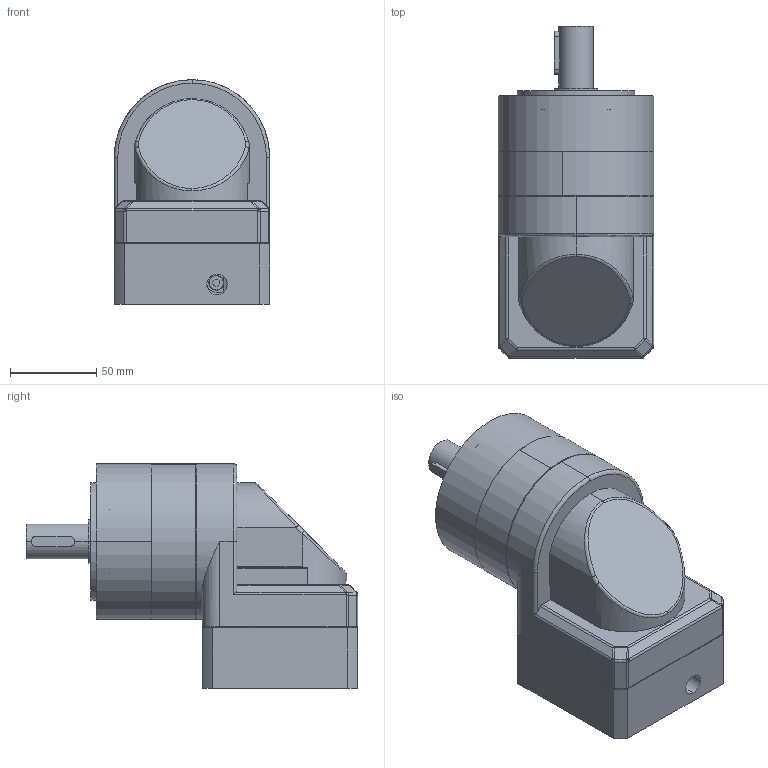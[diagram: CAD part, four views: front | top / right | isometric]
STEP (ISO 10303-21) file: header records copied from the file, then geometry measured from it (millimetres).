
FILE_DESCRIPTION (( 'STEP AP203' ), '1' );
FILE_NAME ('PVEA090-L1-14-73-98.44.STEP', '2026-09-21T07:29:08', ( 'Windows User' ), ( 'P R C' ), 'SwSTEP 2.0', 'SolidWorks 2016', '' );
FILE_SCHEMA (( 'CONFIG_CONTROL_DESIGN' ));
Length unit declared in the file: millimetre
Products named in the file (9): PVEA90-蟀諉啣-73-M5-98.4; PVEA90-薊粣ん-14; M5 x 20; 粣創-3206A 30x62x23.8_2; 邧埴瑩 6x6x25; PVEA090-L1-14-73-98.44; PVEA90 眊极_揤翉陔眊极; PVEA90 κｳﾝﾈｦ-ﾓﾅｻｯ_ﾒｻｼｶﾄﾚｳﾝﾈｦ; PVEA90 奻屳唳
Assembly tree (8 placements, depth 2):
  PVEA090-L1-14-73-98.44
    PVEA90 眊极_揤翉陔眊极
    PVEA90 κｳﾝﾈｦ-ﾓﾅｻｯ_ﾒｻｼｶﾄﾚｳﾝﾈｦ
    PVEA90 奻屳唳
    PVEA90-蟀諉啣-73-M5-98.4
    PVEA90-薊粣ん-14
    M5 x 20
    粣創-3206A 30x62x23.8_2
    邧埴瑩 6x6x25
Bounding box: 90 x 192 x 130 mm (x, y, z)
Volume: 1022773.6 mm3; surface area: 186360.7 mm2
Topology: 8 solids, 8 shells, 1283 faces, 3468 edges, 2258 vertices
Faces by surface type: plane 654, bspline 324, cylinder 259, cone 46
Entity records: 51956 total; most frequent: CARTESIAN_POINT 20696, ORIENTED_EDGE 6864, DIRECTION 5380, EDGE_CURVE 3432, VERTEX_POINT 2258, LINE 1986, VECTOR 1986, AXIS2_PLACEMENT_3D 1697
